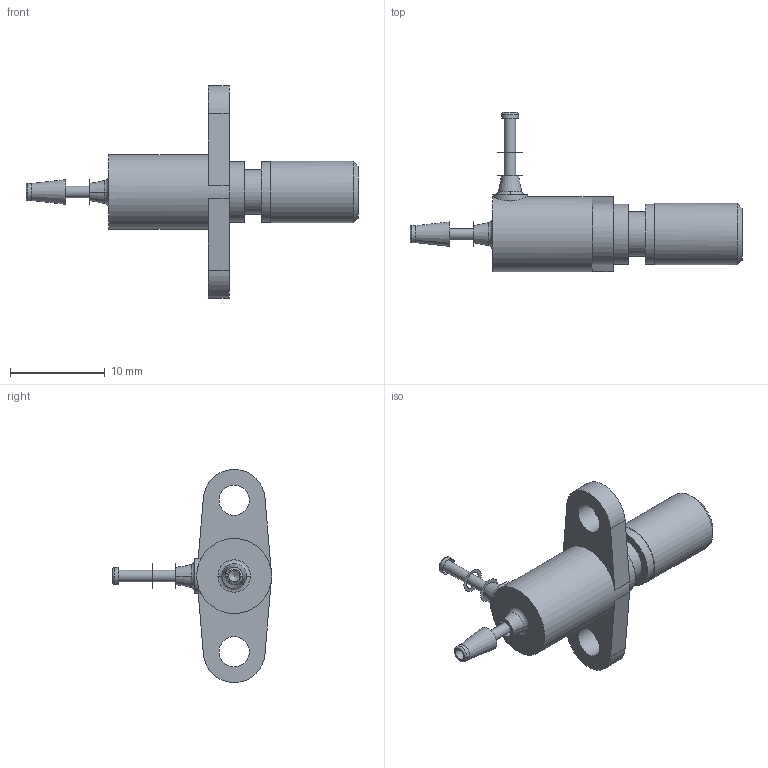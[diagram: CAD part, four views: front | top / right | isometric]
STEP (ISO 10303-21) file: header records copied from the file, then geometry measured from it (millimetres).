
FILE_DESCRIPTION(/* description */ ('SolidWorks IGES file using NURBS representation for surfaces '),/* implementation_level */ '2;1');
FILE_NAME(/* name */ 'K:\Normteile INVENTOR\Air-Logic\Needle Valves\F-2822-41-B80-KSSV.IGS.ipt.stp',/* time_stamp */ '2020-05-27T10:42:51+02:00',/* author */ ('amarsh'),/* organization */ (''),/* preprocessor_version */ 'ST-DEVELOPER v18',/* originating_system */ 'Autodesk Inventor 2020',/* authorisation */ '');
FILE_SCHEMA (('AUTOMOTIVE_DESIGN { 1 0 10303 214 3 1 1 }'));
Length unit declared in the file: millimetre
Products named in the file (1): F-2822-41-B80-KSSV.IGS
Bounding box: 35.07 x 16.83 x 22.5 mm (x, y, z)
Volume: 1275.3 mm3; surface area: 1218.2 mm2
Topology: 2 solids, 2 shells, 53 faces, 142 edges, 102 vertices
Faces by surface type: plane 20, cylinder 14, cone 11, torus 8
Full cylindrical faces by diameter (mm): 1.2 x2, 1.8 x2, 3.2 x2, 3.7 x1, 4.7 x1, 6.35 x2, 6.5 x1, 7.92 x1
Entity records: 1856 total; most frequent: DIRECTION 347, CARTESIAN_POINT 329, ORIENTED_EDGE 280, AXIS2_PLACEMENT_3D 154, EDGE_CURVE 140, VERTEX_POINT 102, CIRCLE 100, EDGE_LOOP 68
